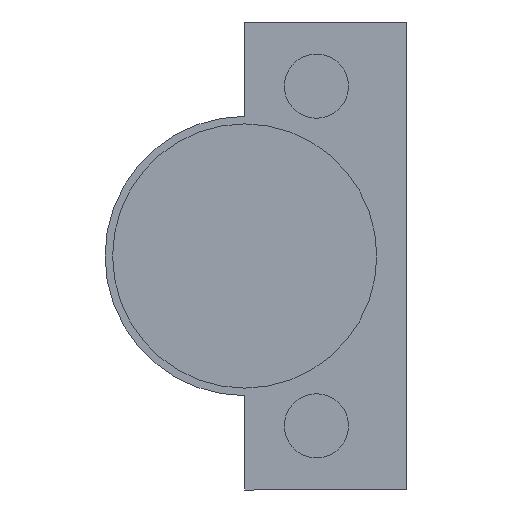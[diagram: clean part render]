
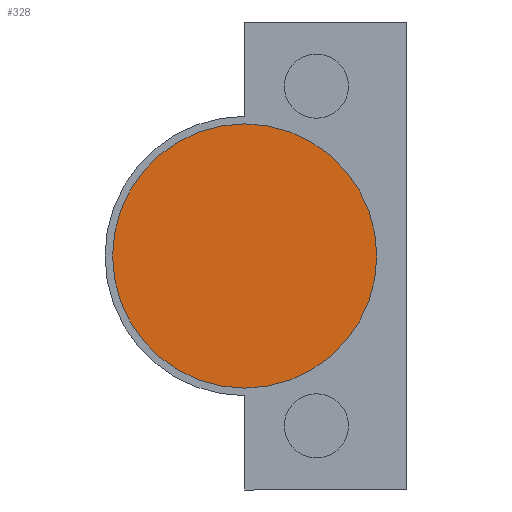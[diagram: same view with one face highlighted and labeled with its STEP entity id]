
A CAD part, front view. The second image highlights one B-rep face of the part: STEP entity #328.
In plain terms, the highlighted planar face has unit normal (0, -1, 0).
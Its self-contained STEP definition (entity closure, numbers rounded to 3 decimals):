
#15 = FACE_OUTER_BOUND ( 'NONE', #116, .T. ) ;
#43 = ORIENTED_EDGE ( 'NONE', *, *, #66, .T. ) ;
#66 = EDGE_CURVE ( 'NONE', #1458, #1283, #1444, .T. ) ;
#116 = EDGE_LOOP ( 'NONE', ( #1202, #43 ) ) ;
#118 = PLANE ( 'NONE',  #1177 ) ;
#312 = EDGE_CURVE ( 'NONE', #1283, #1458, #734, .T. ) ;
#328 = ADVANCED_FACE ( 'NONE', ( #15 ), #118, .T. ) ;
#373 = DIRECTION ( 'NONE',  ( 0., -1., 0. ) ) ;
#380 = DIRECTION ( 'NONE',  ( 0., -1., 0. ) ) ;
#544 = AXIS2_PLACEMENT_3D ( 'NONE', #556, #1457, #682 ) ;
#556 = CARTESIAN_POINT ( 'NONE',  ( 5.5, -51.1, 0. ) ) ;
#631 = CARTESIAN_POINT ( 'NONE',  ( 5.5, -51.1, 0. ) ) ;
#682 = DIRECTION ( 'NONE',  ( 1., 0., 0. ) ) ;
#734 = CIRCLE ( 'NONE', #829, 17.5 ) ;
#746 = CARTESIAN_POINT ( 'NONE',  ( 23., -51.1, 0. ) ) ;
#829 = AXIS2_PLACEMENT_3D ( 'NONE', #1136, #373, #1272 ) ;
#1136 = CARTESIAN_POINT ( 'NONE',  ( 5.5, -51.1, 0. ) ) ;
#1177 = AXIS2_PLACEMENT_3D ( 'NONE', #631, #380, #1280 ) ;
#1202 = ORIENTED_EDGE ( 'NONE', *, *, #312, .T. ) ;
#1257 = CARTESIAN_POINT ( 'NONE',  ( -12., -51.1, 0. ) ) ;
#1272 = DIRECTION ( 'NONE',  ( 1., 0., 0. ) ) ;
#1280 = DIRECTION ( 'NONE',  ( 1., 0., 0. ) ) ;
#1283 = VERTEX_POINT ( 'NONE', #1257 ) ;
#1444 = CIRCLE ( 'NONE', #544, 17.5 ) ;
#1457 = DIRECTION ( 'NONE',  ( 0., -1., 0. ) ) ;
#1458 = VERTEX_POINT ( 'NONE', #746 ) ;
